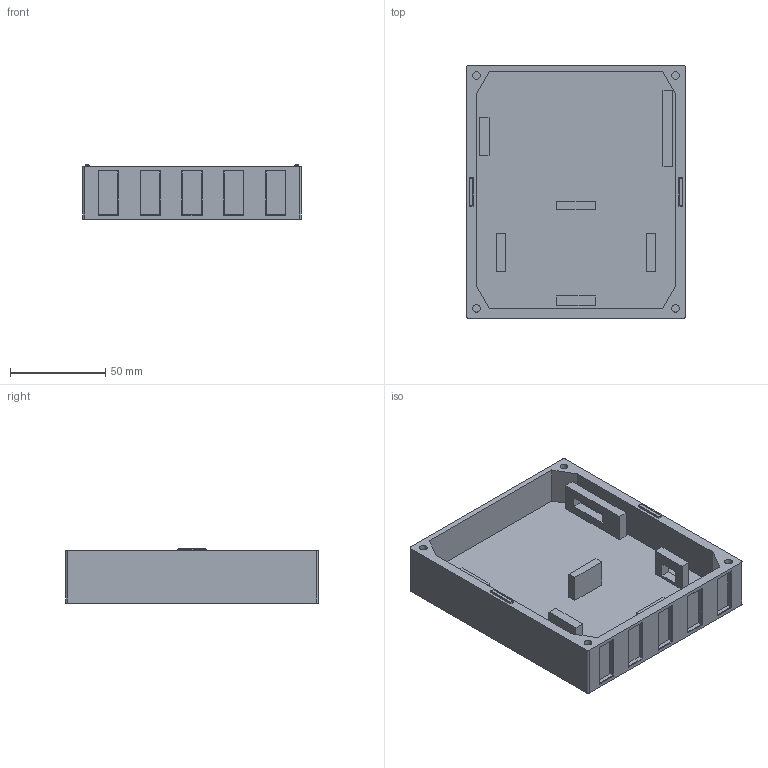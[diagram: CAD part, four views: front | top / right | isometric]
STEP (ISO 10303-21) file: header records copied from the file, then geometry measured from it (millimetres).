
FILE_DESCRIPTION(/* description */ ('STEP AP242 Edition 2','CAx-IF Rec.Pracs.---Representation and Presentation of Product Manufacturing Information (PMI)---4.0---2014-10-13','CAx-IF Rec.Pracs.---3D Tessellated Geometry---0.4---2014-09-14','2;1','CAx-IF Rec.Pracs.---User Defined Attributes---1.5---2016-08-15'),/* implementation_level */ '2;1');
FILE_NAME(/* name */ 'Part Studio 1 - Part 5',/* time_stamp */ '2026-11-25T23:28:50Z',/* author */ (''),/* organization */ (''),/* preprocessor_version */ 'ST-DEVELOPER v20',/* originating_system */ 'ONSHAPE BY PTC INC, 1.224',/* authorisation */ ' ');
FILE_SCHEMA (('AP242_MANAGED_MODEL_BASED_3D_ENGINEERING_MIM_LF { 1 0 10303 442 3 1 4 }'));
Length unit declared in the file: metre
Products named in the file (1): Part 5
Bounding box: 115 x 132.85 x 28.4 mm (x, y, z)
Volume: 166375 mm3; surface area: 59554.4 mm2
Topology: 1 solids, 1 shells, 140 faces, 316 edges, 200 vertices
Faces by surface type: plane 116, cylinder 20, cone 4
Full cylindrical faces by diameter (mm): 4 x4, 10.2 x4
Entity records: 3847 total; most frequent: CARTESIAN_POINT 645, DIRECTION 622, ORIENTED_EDGE 608, EDGE_CURVE 304, LINE 268, VECTOR 268, VERTEX_POINT 200, EDGE_LOOP 178
